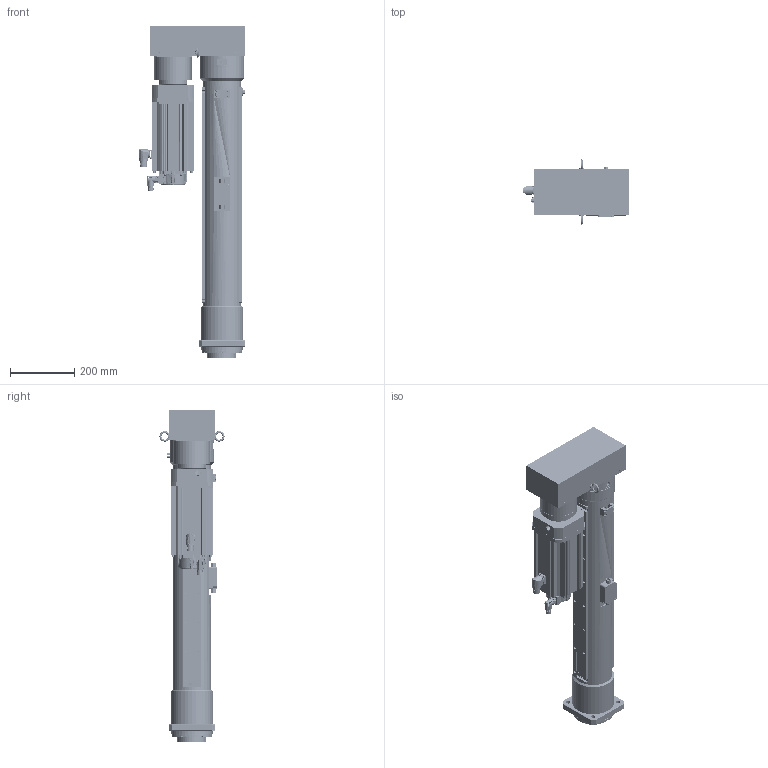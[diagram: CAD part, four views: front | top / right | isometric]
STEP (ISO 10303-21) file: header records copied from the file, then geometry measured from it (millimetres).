
FILE_DESCRIPTION( ('This file contains a STEP AP42 implementation' ,'as created by ZW3D STEP Interface translator.') ,'2;1' );
FILE_NAME( 'OACIS-DC-P050-600-195-A6V400_V20.51.stp' ,'26 428.125946', (''), ('ZWCAD Software Co.'), 'Version 1.0', 'ZW3D to STEP translator', '' );
FILE_SCHEMA(('AUTOMOTIVE_DESIGN { 1 0 10303 214 1 1 1 1 }'));
Length unit declared in the file: millimetre
Products named in the file (1): 0
Bounding box: 331 x 202.25 x 1031 mm (x, y, z)
Volume: 16893190.6 mm3; surface area: 2499479.8 mm2
Topology: 55 solids, 58 shells, 3964 faces, 10155 edges, 6502 vertices
Faces by surface type: cylinder 1933, plane 1478, cone 386, torus 108, bspline 47, sphere 12
Full cylindrical faces by diameter (mm): 1.25 x12, 1.567 x4, 2 x1, 2.232 x6, 2.459 x1, 2.8 x1, 3.242 x3, 3.3 x100, 4.2 x4, 4.3 x34, 4.5 x14, 4.917 x20, 5 x1, 5.3 x4, 5.5 x5, 6 x12, 6.647 x6, 6.8 x41, 7 x4, 8 x40, 8.4 x8, 8.5 x5, 9 x26, 9.5 x4, 9.78 x8, 10 x7, 10.104 x4, 10.106 x1, 10.2 x16, 10.5 x4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
Entity records: 145421 total; most frequent: CARTESIAN_POINT 39365, DIRECTION 22084, ORIENTED_EDGE 20022, EDGE_CURVE 10053, AXIS2_PLACEMENT_3D 8717, VERTEX_POINT 6511, CIRCLE 4786, EDGE_LOOP 4694
